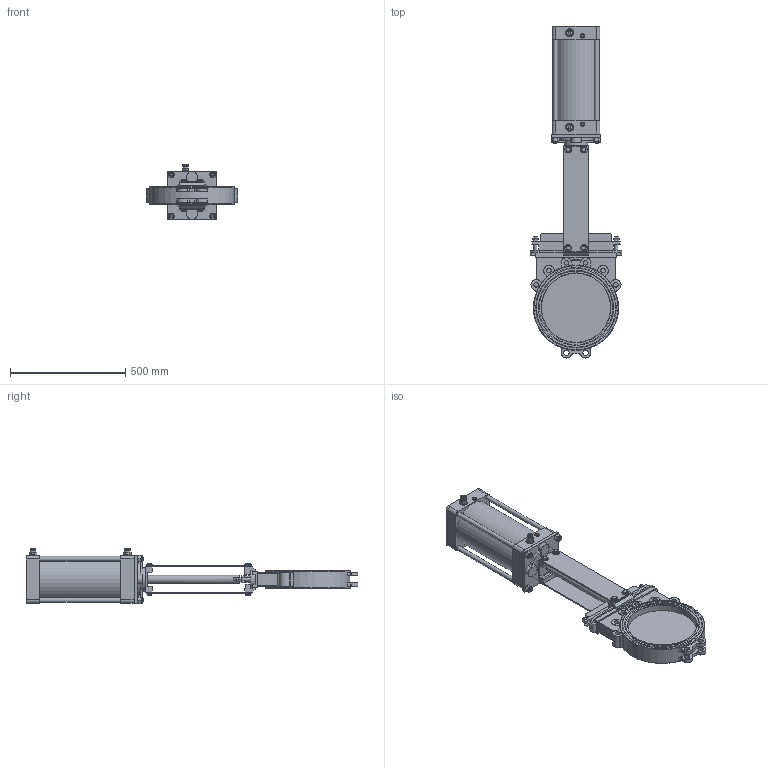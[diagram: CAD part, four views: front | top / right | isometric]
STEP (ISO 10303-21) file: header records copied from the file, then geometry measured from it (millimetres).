
FILE_DESCRIPTION(/* description */ ('D040-07405','CAx-IF Rec.Pracs.---Representation and Presentation of Product Manufacturing Information (PMI)---4.0---2014-10-13'),/* implementation_level */ '2;1');
FILE_NAME(/* name */ '',/* time_stamp */ '2026-03-14T02:19:59+03:00',/* author */ ('DN.RU'),/* organization */ ('DN.RU'),/* preprocessor_version */ 'ST-DEVELOPER v20',/* originating_system */ 'Autodesk Inventor 2025',/* authorisation */ '');
FILE_SCHEMA (('AP242_MANAGED_MODEL_BASED_3D_ENGINEERING_MIM_LF { 1 0 10303 442 1 1 4 }'));
Length unit declared in the file: millimetre
Products named in the file (1): GVKR1331E-2W-Fb-2P
Bounding box: 398.17 x 1443.05 x 240 mm (x, y, z)
Volume: 25251835.2 mm3; surface area: 1484098.6 mm2
Topology: 1 solids, 13 shells, 890 faces, 2127 edges, 1348 vertices
Faces by surface type: plane 535, cylinder 186, cone 134, bspline 23, torus 12
Full cylindrical faces by diameter (mm): 10 x2, 12 x10, 13 x4, 14 x4, 15 x4, 16 x16, 17 x10, 18 x10, 20 x24, 23 x4, 25 x4, 28 x2, 30 x8, 35 x3, 40 x1, 75 x1, 103.259 x1, 200 x1, 300 x2, 370 x1
Entity records: 26671 total; most frequent: CARTESIAN_POINT 5303, DIRECTION 4264, ORIENTED_EDGE 4246, EDGE_CURVE 2123, AXIS2_PLACEMENT_3D 1576, VERTEX_POINT 1348, LINE 1112, VECTOR 1112
